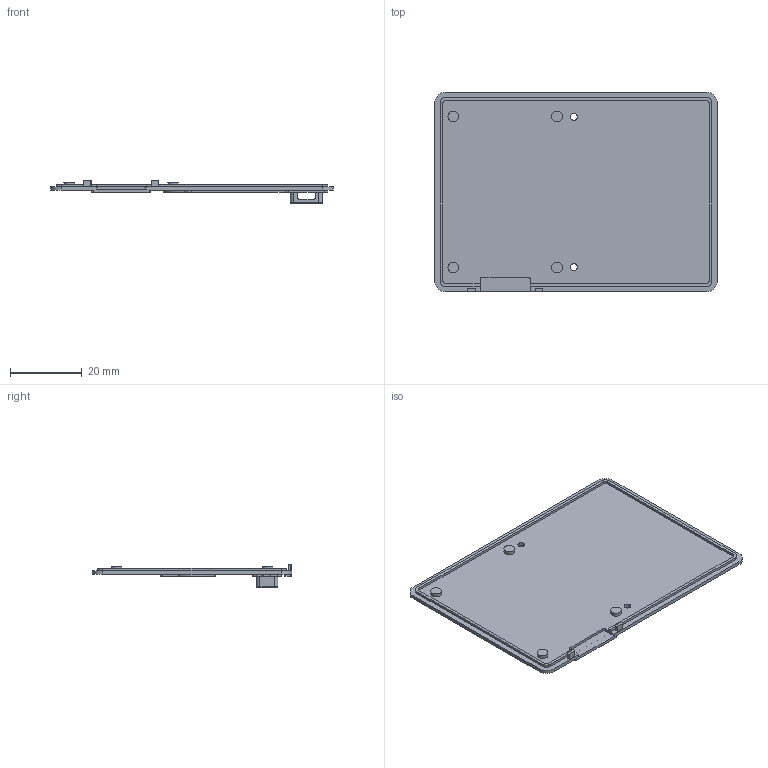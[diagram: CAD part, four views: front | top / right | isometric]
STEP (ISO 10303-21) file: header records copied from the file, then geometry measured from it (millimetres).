
FILE_DESCRIPTION(('Open CASCADE Model'),'2;1');
FILE_NAME('Open CASCADE Shape Model','2026-11-21T23:17:19',('Author'),( 'Open CASCADE'),'Open CASCADE STEP processor 7.9','Open CASCADE 7.9' ,'Unknown');
FILE_SCHEMA(('AUTOMOTIVE_DESIGN { 1 0 10303 214 1 1 1 1 }'));
Length unit declared in the file: millimetre
Products named in the file (1): Open CASCADE STEP translator 7.9 2
Bounding box: 79 x 55.8 x 6.55 mm (x, y, z)
Volume: 4809.3 mm3; surface area: 9782.7 mm2
Topology: 1 solids, 1 shells, 154 faces, 392 edges, 259 vertices
Faces by surface type: plane 80, cylinder 64, extrusion 5, torus 4, cone 1
Full cylindrical faces by diameter (mm): 1.1 x2, 1.4 x2, 1.9 x2, 3 x5
Entity records: 10086 total; most frequent: CARTESIAN_POINT 2118, DIRECTION 1544, VECTOR 892, LINE 887, ORIENTED_EDGE 784, PCURVE 784, DEFINITIONAL_REPRESENTATION 784, EDGE_CURVE 392
